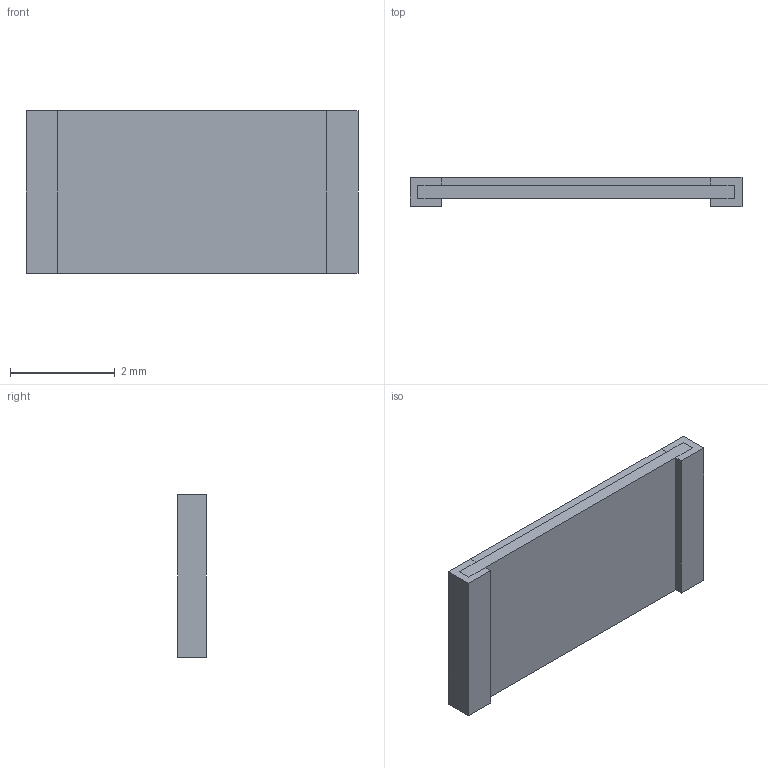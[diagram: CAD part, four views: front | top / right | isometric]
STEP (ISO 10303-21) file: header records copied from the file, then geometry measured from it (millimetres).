
FILE_DESCRIPTION(('FreeCAD Model'),'2;1');
FILE_NAME('Open CASCADE Shape Model','2022-02-08T17:24:17',('Author'),( ''),'Open CASCADE STEP processor 7.5','FreeCAD','Unknown');
FILE_SCHEMA(('AUTOMOTIVE_DESIGN { 1 0 10303 214 1 1 1 1 }'));
Length unit declared in the file: millimetre
Products named in the file (1): Pad002
Bounding box: 6.35 x 0.55 x 3.1 mm (x, y, z)
Volume: 8.4 mm3; surface area: 49.2 mm2
Topology: 1 solids, 1 shells, 18 faces, 48 edges, 32 vertices
Faces by surface type: plane 18
Entity records: 1320 total; most frequent: CARTESIAN_POINT 195, DIRECTION 182, LINE 144, VECTOR 144, ORIENTED_EDGE 96, PCURVE 96, DEFINITIONAL_REPRESENTATION 96, EDGE_CURVE 48
